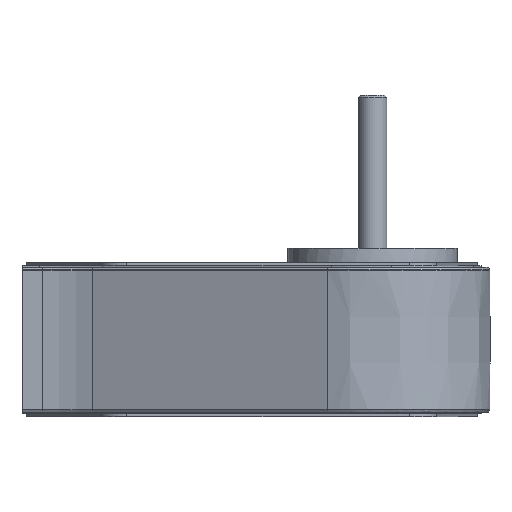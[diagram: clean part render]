
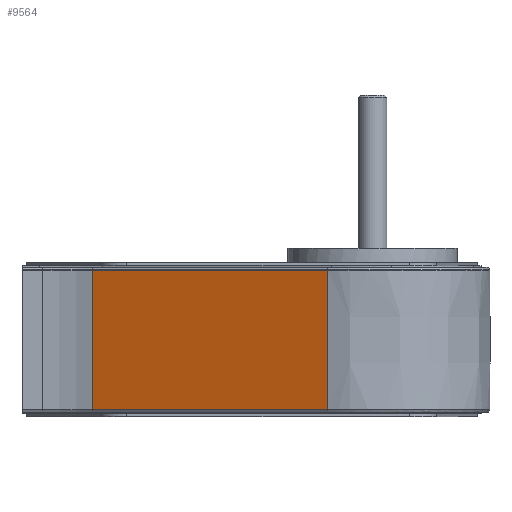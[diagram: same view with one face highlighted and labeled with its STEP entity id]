
A CAD part, front view. The second image highlights one B-rep face of the part: STEP entity #9564.
In plain terms, the highlighted planar face has unit normal (-0.386, -0.923, 0).
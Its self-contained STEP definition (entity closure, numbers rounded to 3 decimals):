
#1164 = CARTESIAN_POINT ( 'NONE',  ( -198.693, -7.022, -49.366 ) ) ;
#2876 = CARTESIAN_POINT ( 'NONE',  ( -32.077, -76.702, 49.366 ) ) ;
#3193 = ORIENTED_EDGE ( 'NONE', *, *, #3771, .F. ) ;
#3194 = VERTEX_POINT ( 'NONE', #12111 ) ;
#3215 = DIRECTION ( 'NONE',  ( 0., 0., 1. ) ) ;
#3344 = ORIENTED_EDGE ( 'NONE', *, *, #9011, .T. ) ;
#3482 = LINE ( 'NONE', #8326, #6516 ) ;
#3488 = LINE ( 'NONE', #17301, #7321 ) ;
#3714 = DIRECTION ( 'NONE',  ( -0.923, 0.386, 0. ) ) ;
#3771 = EDGE_CURVE ( 'NONE', #12875, #16303, #3488, .T. ) ;
#4396 = EDGE_CURVE ( 'NONE', #3194, #16303, #9290, .T. ) ;
#5082 = CARTESIAN_POINT ( 'NONE',  ( -32.077, -76.702, 0. ) ) ;
#5330 = VERTEX_POINT ( 'NONE', #20415 ) ;
#6516 = VECTOR ( 'NONE', #3215, 1000. ) ;
#7321 = VECTOR ( 'NONE', #8350, 1000. ) ;
#8326 = CARTESIAN_POINT ( 'NONE',  ( -32.077, -76.702, 0. ) ) ;
#8350 = DIRECTION ( 'NONE',  ( 0., 0., 1. ) ) ;
#8907 = EDGE_LOOP ( 'NONE', ( #3344, #11911, #3193, #16508 ) ) ;
#9011 = EDGE_CURVE ( 'NONE', #5330, #3194, #3482, .T. ) ;
#9290 = LINE ( 'NONE', #2876, #22309 ) ;
#9564 = ADVANCED_FACE ( 'NONE', ( #21984 ), #13278, .T. ) ;
#9673 = DIRECTION ( 'NONE',  ( -0.923, 0.386, 0. ) ) ;
#10392 = DIRECTION ( 'NONE',  ( 0.923, -0.386, 0. ) ) ;
#10454 = LINE ( 'NONE', #14267, #14583 ) ;
#10881 = EDGE_CURVE ( 'NONE', #5330, #12875, #10454, .T. ) ;
#11739 = AXIS2_PLACEMENT_3D ( 'NONE', #5082, #21122, #10392 ) ;
#11911 = ORIENTED_EDGE ( 'NONE', *, *, #4396, .T. ) ;
#12111 = CARTESIAN_POINT ( 'NONE',  ( -32.077, -76.702, 49.366 ) ) ;
#12875 = VERTEX_POINT ( 'NONE', #1164 ) ;
#13278 = PLANE ( 'NONE',  #11739 ) ;
#14267 = CARTESIAN_POINT ( 'NONE',  ( -32.077, -76.702, -49.366 ) ) ;
#14583 = VECTOR ( 'NONE', #3714, 1000. ) ;
#14705 = CARTESIAN_POINT ( 'NONE',  ( -198.693, -7.022, 49.366 ) ) ;
#16303 = VERTEX_POINT ( 'NONE', #14705 ) ;
#16508 = ORIENTED_EDGE ( 'NONE', *, *, #10881, .F. ) ;
#17301 = CARTESIAN_POINT ( 'NONE',  ( -198.693, -7.022, 0. ) ) ;
#20415 = CARTESIAN_POINT ( 'NONE',  ( -32.077, -76.702, -49.366 ) ) ;
#21122 = DIRECTION ( 'NONE',  ( -0.386, -0.923, 0. ) ) ;
#21984 = FACE_OUTER_BOUND ( 'NONE', #8907, .T. ) ;
#22309 = VECTOR ( 'NONE', #9673, 1000. ) ;
